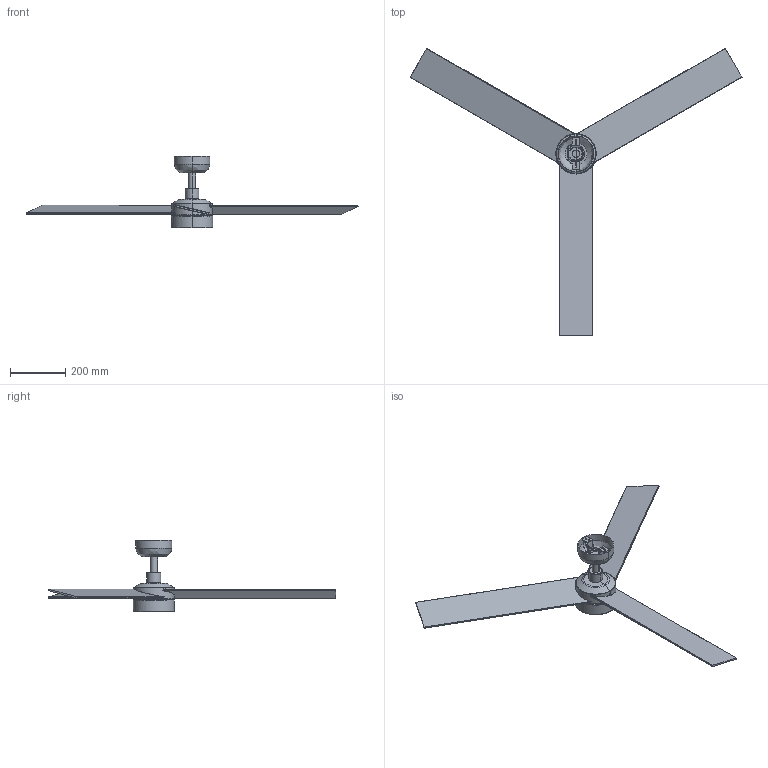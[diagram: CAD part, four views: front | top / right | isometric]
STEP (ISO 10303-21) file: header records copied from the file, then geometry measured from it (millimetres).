
FILE_DESCRIPTION(/* description */ (''),/* implementation_level */ '2;1');
FILE_NAME(/* name */ '34297-1TW_3d',/* time_stamp */ '2026-06-02T11:39:59+02:00',/* author */ (''),/* organization */ (''),/* preprocessor_version */ 'ST-DEVELOPER v19.2',/* originating_system */ 'Rhino 8.30',/* authorisation */ '');
FILE_SCHEMA (('CONFIG_CONTROL_DESIGN'));
Length unit declared in the file: millimetre
Products named in the file (1): Document
Bounding box: 1204.49 x 1043.19 x 261.06 mm (x, y, z)
Volume: 2078964.6 mm3; surface area: 762140.8 mm2
Topology: 6 solids, 7 shells, 256 faces, 677 edges, 421 vertices
Faces by surface type: plane 131, cylinder 95, bspline 30
Entity records: 12718 total; most frequent: CARTESIAN_POINT 5944, ORIENTED_EDGE 1342, EDGE_CURVE 677, DIRECTION 636, B_SPLINE_CURVE_WITH_KNOTS 438, AXIS2_PLACEMENT_3D 431, VERTEX_POINT 421, EDGE_LOOP 289
